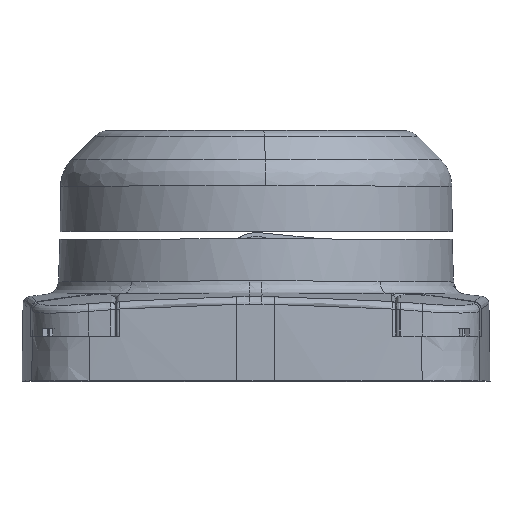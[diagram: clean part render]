
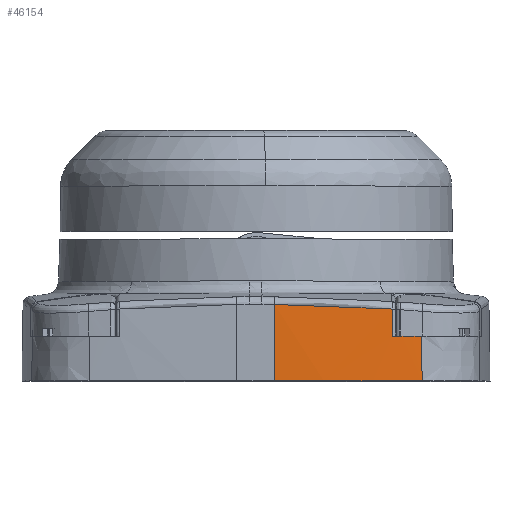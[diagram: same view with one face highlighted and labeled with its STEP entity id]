
A CAD part, top view. The second image highlights one B-rep face of the part: STEP entity #46154.
In plain terms, the highlighted conical face has half-angle 0.8 degrees and reference radius 297.984 mm.
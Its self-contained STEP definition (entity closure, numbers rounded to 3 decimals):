
#119 = CARTESIAN_POINT ( 'NONE',  ( 538.742, -183.468, -102.294 ) ) ;
#1584 = CARTESIAN_POINT ( 'NONE',  ( 524.947, -191.164, -101.589 ) ) ;
#9014 = VERTEX_POINT ( 'NONE', #87620 ) ;
#9017 = CARTESIAN_POINT ( 'NONE',  ( 522.631, -191.165, -101.617 ) ) ;
#10396 = VERTEX_POINT ( 'NONE', #50087 ) ;
#11116 = LINE ( 'NONE', #59219, #45369 ) ;
#11207 = EDGE_CURVE ( 'NONE', #9014, #70557, #89131, .T. ) ;
#15865 = AXIS2_PLACEMENT_3D ( 'NONE', #20879, #21471, #28627 ) ;
#19770 = AXIS2_PLACEMENT_3D ( 'NONE', #47871, #84399, #83796 ) ;
#20879 = CARTESIAN_POINT ( 'NONE',  ( 526.709, -220.901, -397.895 ) ) ;
#21198 = FACE_OUTER_BOUND ( 'NONE', #59836, .T. ) ;
#21471 = DIRECTION ( 'NONE',  ( 1., 0., -0.002 ) ) ;
#22295 = CARTESIAN_POINT ( 'NONE',  ( 520.315, -191.165, -101.645 ) ) ;
#28627 = DIRECTION ( 'NONE',  ( -0.002, 0., -1. ) ) ;
#33075 = ORIENTED_EDGE ( 'NONE', *, *, #55620, .F. ) ;
#33165 = CARTESIAN_POINT ( 'NONE',  ( 520.315, -191.165, -101.645 ) ) ;
#36037 = CIRCLE ( 'NONE', #49163, 297.984 ) ;
#36312 = EDGE_CURVE ( 'NONE', #68470, #61343, #11116, .T. ) ;
#37783 = CARTESIAN_POINT ( 'NONE',  ( 519.14, -221.416, -100.171 ) ) ;
#39114 = ORIENTED_EDGE ( 'NONE', *, *, #75076, .T. ) ;
#40548 = CARTESIAN_POINT ( 'NONE',  ( 538.189, -220.901, -397.917 ) ) ;
#45369 = VECTOR ( 'NONE', #73492, 1000. ) ;
#45889 = B_SPLINE_CURVE_WITH_KNOTS ( 'NONE', 3,
 ( #119, #51132, #50841, #57274 ),
 .UNSPECIFIED., .F., .F.,
 ( 4, 4 ),
 ( 0., 1. ),
 .UNSPECIFIED. ) ;
#46154 = ADVANCED_FACE ( 'NONE', ( #21198 ), #54370, .T. ) ;
#46811 = CARTESIAN_POINT ( 'NONE',  ( 519.14, -221.416, -100.171 ) ) ;
#47651 = DIRECTION ( 'NONE',  ( -1., 0., 0.002 ) ) ;
#47871 = CARTESIAN_POINT ( 'NONE',  ( 538.189, -220.901, -397.917 ) ) ;
#48205 = CARTESIAN_POINT ( 'NONE',  ( 538.742, -183.468, -102.294 ) ) ;
#49163 = AXIS2_PLACEMENT_3D ( 'NONE', #40548, #47651, #55010 ) ;
#50087 = CARTESIAN_POINT ( 'NONE',  ( 527.262, -183.623, -102.415 ) ) ;
#50652 = VERTEX_POINT ( 'NONE', #48205 ) ;
#50841 = CARTESIAN_POINT ( 'NONE',  ( 531.089, -183.571, -102.375 ) ) ;
#51132 = CARTESIAN_POINT ( 'NONE',  ( 534.915, -183.519, -102.334 ) ) ;
#54370 = CONICAL_SURFACE ( 'NONE', #19770, 297.984, 0.014 ) ;
#55010 = DIRECTION ( 'NONE',  ( -0.002, 0., -1. ) ) ;
#55620 = EDGE_CURVE ( 'NONE', #68470, #70557, #76376, .T. ) ;
#57274 = CARTESIAN_POINT ( 'NONE',  ( 527.262, -183.623, -102.415 ) ) ;
#59219 = CARTESIAN_POINT ( 'NONE',  ( 519.14, -221.416, -100.171 ) ) ;
#59629 = CIRCLE ( 'NONE', #15865, 297.823 ) ;
#59836 = EDGE_LOOP ( 'NONE', ( #88782, #71458, #33075, #85852, #39114, #63496 ) ) ;
#60409 = CARTESIAN_POINT ( 'NONE',  ( 520.315, -191.165, -101.645 ) ) ;
#61343 = VERTEX_POINT ( 'NONE', #86043 ) ;
#62168 = EDGE_CURVE ( 'NONE', #50652, #10396, #45889, .T. ) ;
#63496 = ORIENTED_EDGE ( 'NONE', *, *, #62168, .T. ) ;
#64685 = CARTESIAN_POINT ( 'NONE',  ( 527.263, -191.164, -101.561 ) ) ;
#68470 = VERTEX_POINT ( 'NONE', #37783 ) ;
#70557 = VERTEX_POINT ( 'NONE', #33165 ) ;
#71458 = ORIENTED_EDGE ( 'NONE', *, *, #11207, .T. ) ;
#73492 = DIRECTION ( 'NONE',  ( 1., 0., 0.012 ) ) ;
#74090 = CARTESIAN_POINT ( 'NONE',  ( 519.914, -197.187, -101.046 ) ) ;
#74381 = CARTESIAN_POINT ( 'NONE',  ( 519.595, -203.229, -100.597 ) ) ;
#75076 = EDGE_CURVE ( 'NONE', #61343, #50652, #36037, .T. ) ;
#76376 = B_SPLINE_CURVE_WITH_KNOTS ( 'NONE', 5,
 ( #46811, #88619, #88308, #74381, #74090, #60409 ),
 .UNSPECIFIED., .F., .F.,
 ( 6, 6 ),
 ( 0., 1. ),
 .UNSPECIFIED. ) ;
#83796 = DIRECTION ( 'NONE',  ( -0.002, 0., -1. ) ) ;
#84274 = EDGE_CURVE ( 'NONE', #10396, #9014, #59629, .T. ) ;
#84399 = DIRECTION ( 'NONE',  ( 1., 0., -0.002 ) ) ;
#85852 = ORIENTED_EDGE ( 'NONE', *, *, #36312, .T. ) ;
#86043 = CARTESIAN_POINT ( 'NONE',  ( 538.746, -221.416, -99.934 ) ) ;
#87620 = CARTESIAN_POINT ( 'NONE',  ( 527.263, -191.164, -101.561 ) ) ;
#88308 = CARTESIAN_POINT ( 'NONE',  ( 519.36, -209.286, -100.302 ) ) ;
#88619 = CARTESIAN_POINT ( 'NONE',  ( 519.208, -215.35, -100.16 ) ) ;
#88782 = ORIENTED_EDGE ( 'NONE', *, *, #84274, .T. ) ;
#89131 = B_SPLINE_CURVE_WITH_KNOTS ( 'NONE', 3,
 ( #64685, #1584, #9017, #22295 ),
 .UNSPECIFIED., .F., .F.,
 ( 4, 4 ),
 ( 0., 1. ),
 .UNSPECIFIED. ) ;
